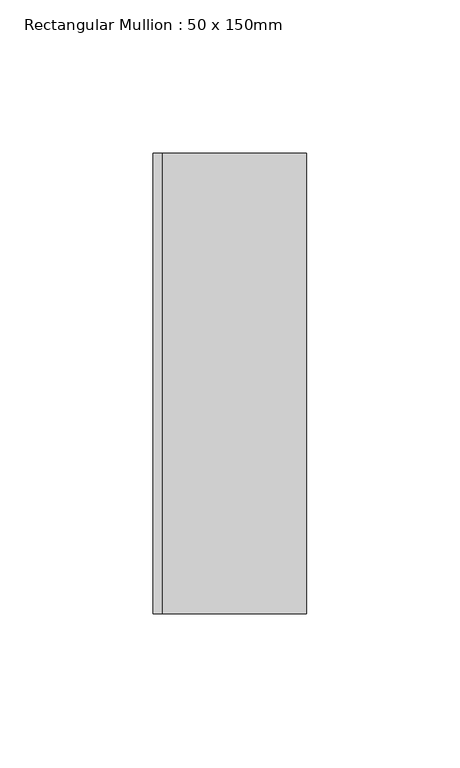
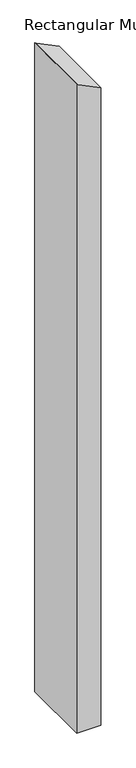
"""IFC4 building model written with IfcOpenShell, lengths in millimetres: member geometry, Rectangular Mullion : 50 x 150mm."""

from ifc_helpers import new_model, si_unit, frame, origin, place, context, project, spatial, polyline, outline, extrude, source, transform, mapped, element, save


def rectangular_mullion_50_x_150mm_a1b91ff3(model_context):
    return source(origin(), model_context, "Body", "SweptSolid", [
        extrude(outline(polyline([(-68.0723996, 25.0), (-44.9270386, -21.9452734), (-43.4488037, -25.0), (-1465.9914551, -25.0), (-1465.9914551, 25.0), (-68.0723996, 25.0)])), frame((0.0, -75.0, 0.0), z_axis=(0.0, 1.0, 0.0), x_axis=(0.0, 0.0, 1.0)), (0.0, 0.0, 1.0), 150.0),
    ])


if __name__ == "__main__":
    model = new_model("IFC4")
    model_context = context("Model", 3, world=origin())
    ifc_project = project(units=[si_unit("LENGTHUNIT", "METRE", prefix="MILLI")], contexts=[model_context])
    site = spatial("IfcSite", under=ifc_project)
    building = spatial("IfcBuilding", under=site)
    placement = place(None, origin())
    rectangular_mullion_50_x_150mm_shape = rectangular_mullion_50_x_150mm_a1b91ff3(model_context)
    element("IfcMember", 1, ObjectType="Rectangular Mullion : 50 x 150mm", at=placement, inside=building, context=model_context, shape_type="MappedRepresentation", body=[
        mapped(rectangular_mullion_50_x_150mm_shape, transform((0.0, 0.0, 0.0), x_axis=(1.0, 0.0, 0.0), y_axis=(0.0, 1.0, 0.0), z_axis=(0.0, 0.0, 1.0))),
    ])
    save(model, "model.ifc")
